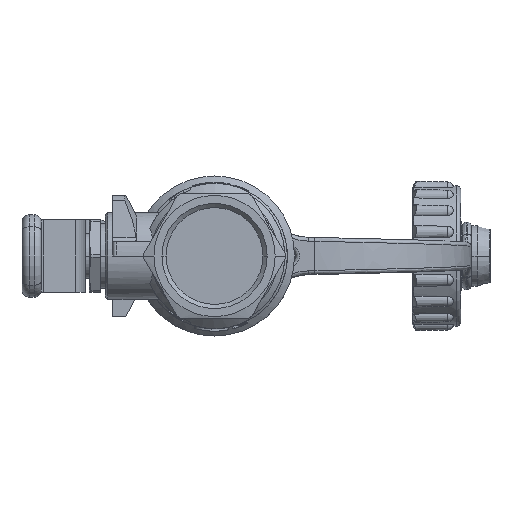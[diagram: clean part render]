
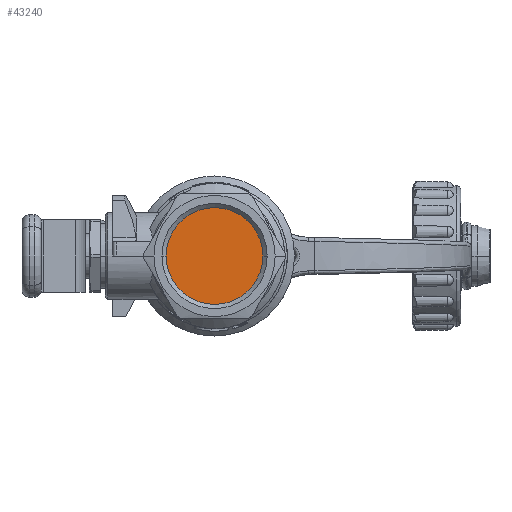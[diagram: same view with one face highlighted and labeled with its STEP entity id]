
A CAD part, left-side view. The second image highlights one B-rep face of the part: STEP entity #43240.
In plain terms, the highlighted planar face has unit normal (-1, 0, 0).
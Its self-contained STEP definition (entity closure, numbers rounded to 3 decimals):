
#43183=CARTESIAN_POINT('',(-31.,0.,0.));
#43184=DIRECTION('',(-1.,0.,0.));
#43185=DIRECTION('',(0.,-1.,0.));
#43186=AXIS2_PLACEMENT_3D('',#43183,#43184,#43185);
#43192=CARTESIAN_POINT('',(-31.,0.,0.));
#43193=DIRECTION('',(1.,0.,0.));
#43194=DIRECTION('',(0.,-1.,0.));
#43195=AXIS2_PLACEMENT_3D('',#43192,#43193,#43194);
#43217=CARTESIAN_POINT('',(-31.,-9.977,0.));
#43219=VERTEX_POINT('',#43217);
#43221=CARTESIAN_POINT('',(-31.,9.977,0.));
#43223=VERTEX_POINT('',#43221);
#43229=CARTESIAN_POINT('',(-31.,0.,0.));
#43230=DIRECTION('',(1.,0.,0.));
#43231=DIRECTION('',(0.,-1.,0.));
#43232=AXIS2_PLACEMENT_3D('',#43229,#43230,#43231);
#43233=PLANE('',#43232);
#43235=ORIENTED_EDGE('',*,*,#43234,.F.);
#43237=ORIENTED_EDGE('',*,*,#43236,.T.);
#43238=EDGE_LOOP('',(#43235,#43237));
#43239=FACE_OUTER_BOUND('',#43238,.F.);
#43240=ADVANCED_FACE('',(#43239),#43233,.F.);
#43187=CIRCLE('',#43186,9.977);
#43196=CIRCLE('',#43195,9.977);
#43234=EDGE_CURVE('',#43219,#43223,#43187,.T.);
#43236=EDGE_CURVE('',#43219,#43223,#43196,.T.);
